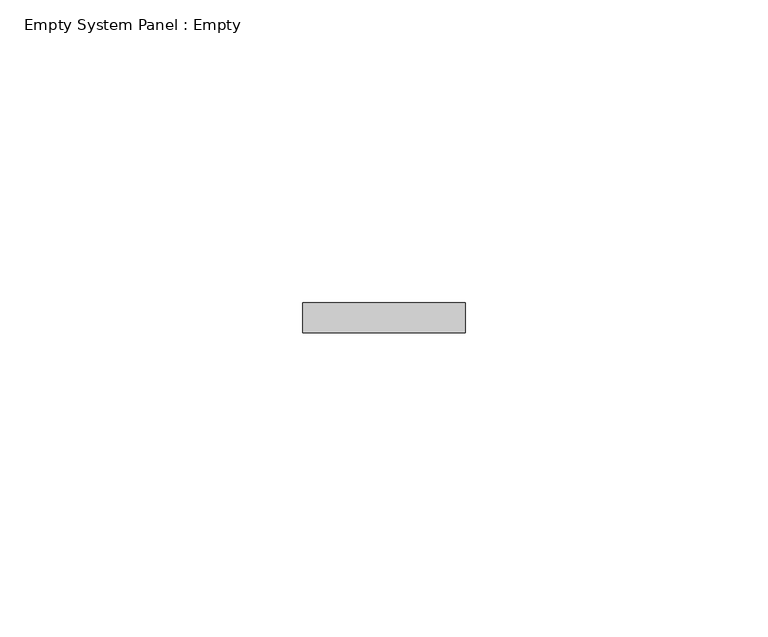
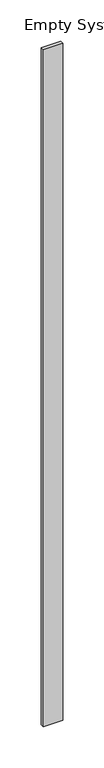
"""IFC4 building model written with IfcOpenShell, lengths in millimetres: plate geometry, Empty System Panel : Empty."""

from ifc_helpers import new_model, si_unit, origin, origin_with_axes, place, context, project, spatial, polyline, outline, extrude, source, transform, mapped, element, save


def empty_system_panel_empty_80cd7aea(model_context):
    return source(origin(), model_context, "Body", "SweptSolid", [
        extrude(outline(polyline([(13.4499998, 97.5), (-13.4499998, 97.5), (-13.4499998, 102.5), (13.4499998, 102.5), (13.4499998, 97.5)])), origin_with_axes(), (0.0, 0.0, 1.0), 1000.0),
    ])


if __name__ == "__main__":
    model = new_model("IFC4")
    model_context = context("Model", 3, world=origin())
    ifc_project = project(units=[si_unit("LENGTHUNIT", "METRE", prefix="MILLI")], contexts=[model_context])
    site = spatial("IfcSite", under=ifc_project)
    building = spatial("IfcBuilding", under=site)
    placement = place(None, origin())
    empty_system_panel_empty_shape = empty_system_panel_empty_80cd7aea(model_context)
    element("IfcPlate", 1, ObjectType="Empty System Panel : Empty", at=placement, inside=building, context=model_context, shape_type="MappedRepresentation", body=[
        mapped(empty_system_panel_empty_shape, transform((0.0, 0.0, 0.0), x_axis=(1.0, 0.0, 0.0), y_axis=(0.0, 1.0, 0.0), z_axis=(0.0, 0.0, 1.0))),
    ])
    save(model, "model.ifc")
